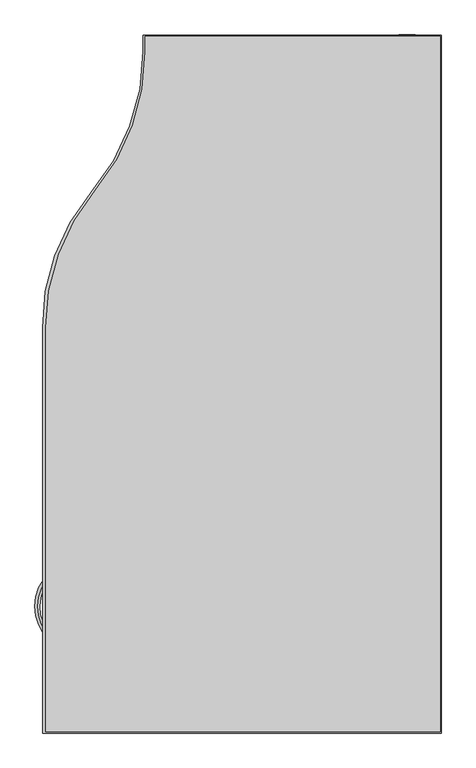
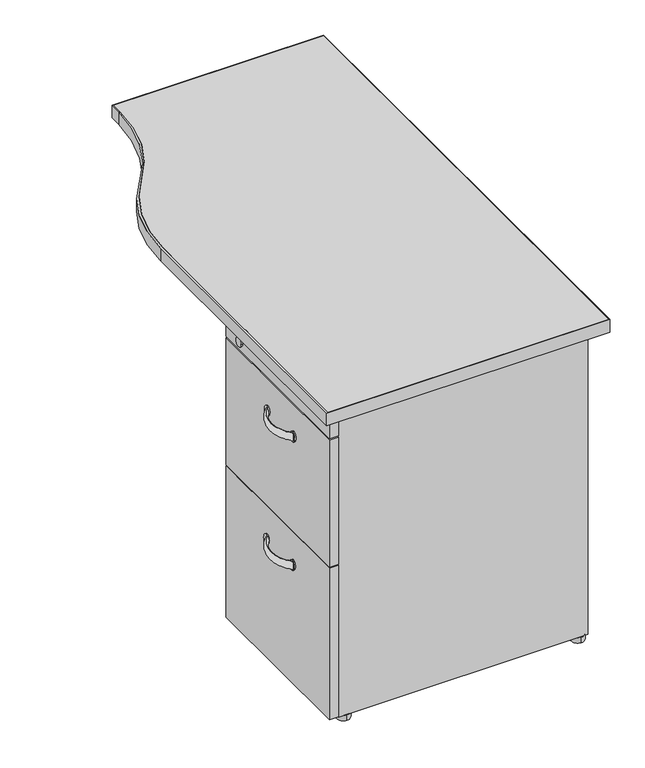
"""IFC4 building model written with IfcOpenShell, lengths in millimetres: furniture geometry, Steelcase - Kick Freestanding - Desk - Single Pedestal Transition Return - Full Modesty Panel : 18D x 42W - Right - File/File."""

import ifcopenshell
import ifcopenshell.guid

model = None  # the IFC model being written
_history = None  # IfcOwnerHistory: only IFC2X3 demands one
_inside = {}  # id of a spatial element -> (the spatial element, [elements in it])
_under = {}  # id of a project, library or spatial element -> (it, [spatial elements below it])
_declared = {}  # id of a project -> (the project, [libraries it declares])
_typed = {}  # id of a type object -> (the type object, [elements of that type])
_made_of = {}  # id of a material, layer set ... -> (it, [elements and type objects made of it])


def new_model(schema):
    """Start an empty IFC model of exactly this schema.

    Asked for "IFC4X3", IfcOpenShell would pick the latest addendum, in which some entities
    have other attributes; the version numbers below select the first issue.
    IFC2X3 requires an IfcOwnerHistory on every rooted entity: one is made here for all.
    """
    global model, _history
    if schema == "IFC4X3":
        model = ifcopenshell.file(schema_version=(4, 3, 0, 0))
    else:
        model = ifcopenshell.file(schema=schema)
    _inside.clear()
    _under.clear()
    _declared.clear()
    _typed.clear()
    _made_of.clear()
    _history = None
    if model.schema == "IFC2X3":
        org = make("IfcOrganization", Name="unknown")
        user = make(
            "IfcPersonAndOrganization",
            ThePerson=make("IfcPerson", FamilyName="unknown"),
            TheOrganization=org,
        )
        app = make(
            "IfcApplication",
            ApplicationDeveloper=org,
            Version="unknown",
            ApplicationFullName="unknown",
            ApplicationIdentifier="unknown",
        )
        _history = make(
            "IfcOwnerHistory",
            OwningUser=user,
            OwningApplication=app,
            ChangeAction="ADDED",
            CreationDate=0,
        )
    return model


def make(cls, **values):
    """One entity of the class cls with the attributes given. An attribute that is None is left unset."""
    return model.create_entity(
        cls, **{name: value for name, value in values.items() if value is not None}
    )


def rooted(cls, **values):
    """An entity with a GlobalId (a new one), such as an element, a storey or a relation."""
    return make(cls, GlobalId=ifcopenshell.guid.new(), OwnerHistory=_history, **values)


def si_unit(unit_type, name, prefix=None):
    """IfcSIUnit, for example si_unit("LENGTHUNIT", "METRE", prefix="MILLI")."""
    return make("IfcSIUnit", UnitType=unit_type, Prefix=prefix, Name=name)


def assignment(units):
    """IfcUnitAssignment: the units of a project."""
    return None if units is None else make("IfcUnitAssignment", Units=units)


def point(xyz):
    """IfcCartesianPoint."""
    return None if xyz is None else make("IfcCartesianPoint", Coordinates=xyz)


def direction(xyz):
    """IfcDirection."""
    return None if xyz is None else make("IfcDirection", DirectionRatios=xyz)


def frame(location, z_axis=None, x_axis=None):
    """IfcAxis2Placement3D, a coordinate frame: its origin and axes. An axis left out is left unset."""
    return make(
        "IfcAxis2Placement3D",
        Location=point(location),
        Axis=direction(z_axis),
        RefDirection=direction(x_axis),
    )


def frame_2d(location, x_axis=None):
    """IfcAxis2Placement2D, a coordinate frame in the plane: its origin and x axis."""
    return make(
        "IfcAxis2Placement2D", Location=point(location), RefDirection=direction(x_axis)
    )


def origin():
    """The frame at (0, 0, 0) with its axes left unset."""
    return frame((0.0, 0.0, 0.0))


def origin_with_axes():
    """The frame at (0, 0, 0) with the z axis (0, 0, 1) and the x axis (1, 0, 0) written out."""
    return frame((0.0, 0.0, 0.0), z_axis=(0.0, 0.0, 1.0), x_axis=(1.0, 0.0, 0.0))


def place(relative_to, where):
    """IfcLocalPlacement: puts the frame where relative to a parent placement (None: the world)."""
    return make(
        "IfcLocalPlacement", PlacementRelTo=relative_to, RelativePlacement=where
    )


def context(
    kind, dimensions, precision=None, world=None, true_north=None, identifier=None
):
    """IfcGeometricRepresentationContext, for example the 3D "Model" context."""
    return make(
        "IfcGeometricRepresentationContext",
        ContextIdentifier=identifier,
        ContextType=kind,
        CoordinateSpaceDimension=dimensions,
        Precision=precision,
        WorldCoordinateSystem=world,
        TrueNorth=true_north,
    )


def project(units=None, contexts=None):
    """IfcProject with its units and contexts."""
    return rooted(
        "IfcProject",
        Name="project",
        RepresentationContexts=contexts,
        UnitsInContext=assignment(units),
    )


def spatial(cls, under=None, at=None, **own):
    """A site, building, storey or space (cls), placed at a placement, below another one or the project."""
    s = rooted(cls, ObjectPlacement=at, **own)
    if under is not None:
        _under.setdefault(under.id(), (under, []))[1].append(s)
    return s


def polyline(points):
    """IfcPolyline through the points."""
    return make("IfcPolyline", Points=[point(p) for p in points])


def circle_curve(where, radius):
    """IfcCircle in the frame where."""
    return make("IfcCircle", Position=where, Radius=radius)


def ellipse_curve(where, semi_axis1, semi_axis2):
    """IfcEllipse in the frame where."""
    return make(
        "IfcEllipse", Position=where, SemiAxis1=semi_axis1, SemiAxis2=semi_axis2
    )


def trimmed(basis, trim1, trim2, sense, master):
    """IfcTrimmedCurve: the piece of a basis curve between two trims."""
    return make(
        "IfcTrimmedCurve",
        BasisCurve=basis,
        Trim1=trim1,
        Trim2=trim2,
        SenseAgreement=sense,
        MasterRepresentation=master,
    )


def segment(curve, same_sense, transition):
    """IfcCompositeCurveSegment."""
    return make(
        "IfcCompositeCurveSegment",
        Transition=transition,
        SameSense=same_sense,
        ParentCurve=curve,
    )


def composite_curve(segments, self_intersect=None):
    """IfcCompositeCurve: segments joined end to end."""
    return make("IfcCompositeCurve", Segments=segments, SelfIntersect=self_intersect)


def outline(outer, holes=None, kind="AREA"):
    """IfcArbitraryClosedProfileDef: a profile drawn as a closed curve; with holes, ...WithVoids."""
    if holes is None:
        return make("IfcArbitraryClosedProfileDef", ProfileType=kind, OuterCurve=outer)
    return make(
        "IfcArbitraryProfileDefWithVoids",
        ProfileType=kind,
        OuterCurve=outer,
        InnerCurves=holes,
    )


def extrude(swept, where, along, depth):
    """IfcExtrudedAreaSolid: the profile swept, set in the frame where, extruded along a direction by depth."""
    return make(
        "IfcExtrudedAreaSolid",
        SweptArea=swept,
        Position=where,
        ExtrudedDirection=direction(along),
        Depth=depth,
    )


def shape(context_of_items, identifier, shape_type, items):
    """IfcShapeRepresentation: the items that make up one representation, for example the "Body"."""
    return make(
        "IfcShapeRepresentation",
        ContextOfItems=context_of_items,
        RepresentationIdentifier=identifier,
        RepresentationType=shape_type,
        Items=items,
    )


def source(mapping_origin, context_of_items, identifier, shape_type, items):
    """IfcRepresentationMap: a shape defined once, which mapped items show again and again."""
    return make(
        "IfcRepresentationMap",
        MappingOrigin=mapping_origin,
        MappedRepresentation=shape(context_of_items, identifier, shape_type, items),
    )


def transform(
    local_origin,
    x_axis=None,
    y_axis=None,
    z_axis=None,
    scale=None,
    scale2=None,
    scale3=None,
    uniform=True,
):
    """IfcCartesianTransformationOperator3D, or its non-uniform kind. x_axis, y_axis, z_axis: its Axis1, 2, 3."""
    if uniform:
        return make(
            "IfcCartesianTransformationOperator3D",
            Axis1=direction(x_axis),
            Axis2=direction(y_axis),
            LocalOrigin=point(local_origin),
            Scale=scale,
            Axis3=direction(z_axis),
        )
    return make(
        "IfcCartesianTransformationOperator3DnonUniform",
        Axis1=direction(x_axis),
        Axis2=direction(y_axis),
        LocalOrigin=point(local_origin),
        Scale=scale,
        Axis3=direction(z_axis),
        Scale2=scale2,
        Scale3=scale3,
    )


def mapped(mapping_source, mapping_target):
    """IfcMappedItem: shows the shape of a source again, moved by a transform."""
    return make(
        "IfcMappedItem", MappingSource=mapping_source, MappingTarget=mapping_target
    )


def made_of(thing, what):
    """Note that an element or type object is made of a material, layer set ...; save() writes the relation."""
    if what is not None:
        _made_of.setdefault(what.id(), (what, []))[1].append(thing)
    return thing


def element(
    cls,
    number,
    at=None,
    inside=None,
    cuts=None,
    type_object=None,
    material=None,
    context=None,
    identifier="Body",
    shape_type=None,
    held_by="IfcProductDefinitionShape",
    body=None,
    shapes=None,
    **own,
):
    """One element of the class cls, such as IfcWall. Its Tag is "e" and its number.

    at: its placement. inside: the storey or other place that contains it. cuts: it is an
    opening in that element (IfcRelVoidsElement). A single representation is given by context,
    identifier, shape_type and body (its items); several are given by shapes. held_by: the class
    of the entity that holds the representations. save() writes the other relations.
    """
    e = rooted(cls, Tag="e%d" % number, ObjectPlacement=at, **own)
    if body is not None:
        shapes = [shape(context, identifier, shape_type, body)]
    if shapes is not None:
        e.Representation = make(held_by, Representations=shapes)
    if inside is not None:
        _inside.setdefault(inside.id(), (inside, []))[1].append(e)
    if cuts is not None:
        rooted(
            "IfcRelVoidsElement", RelatingBuildingElement=cuts, RelatedOpeningElement=e
        )
    if type_object is not None:
        _typed.setdefault(type_object.id(), (type_object, []))[1].append(e)
    return made_of(e, material)


def aggregate(whole, parts):
    """IfcRelAggregates: a whole, such as a stair, and the parts it consists of."""
    return rooted("IfcRelAggregates", RelatingObject=whole, RelatedObjects=parts)


def save(model, path):
    """Write the relations noted so far, then the file.

    IfcRelAggregates (storeys below a building ...), IfcRelContainedInSpatialStructure (elements
    in a storey), IfcRelDefinesByType, IfcRelAssociatesMaterial and IfcRelDeclares: one each for
    every whole, place, type object, material and project.
    """
    for whole, parts in _under.values():
        aggregate(whole, parts)
    for where, things in _inside.values():
        rooted(
            "IfcRelContainedInSpatialStructure",
            RelatedElements=things,
            RelatingStructure=where,
        )
    for kind, things in _typed.values():
        rooted("IfcRelDefinesByType", RelatedObjects=things, RelatingType=kind)
    for what, things in _made_of.values():
        rooted("IfcRelAssociatesMaterial", RelatedObjects=things, RelatingMaterial=what)
    for by, libraries in _declared.values():
        rooted("IfcRelDeclares", RelatingContext=by, RelatedDefinitions=libraries)
    model.write(path)


def plane_surface(at):
    """IfcPlane: the flat surface through the origin of the frame at, square to its z axis."""
    return make("IfcPlane", Position=at)


def cylinder_surface(at, radius):
    """IfcCylindricalSurface: all points at the distance radius from the z axis of the frame at."""
    return make("IfcCylindricalSurface", Position=at, Radius=radius)


def revolved_surface(curve, axis_point, axis_direction):
    """IfcSurfaceOfRevolution: the curve turned about the line through axis_point along axis_direction."""
    return make(
        "IfcSurfaceOfRevolution",
        SweptCurve=make("IfcArbitraryOpenProfileDef", ProfileType="CURVE", Curve=curve),
        AxisPosition=make("IfcAxis1Placement", Location=point(axis_point), Axis=direction(axis_direction)),
    )


def extruded_surface(curve, direction_of_extrusion, depth):
    """IfcSurfaceOfLinearExtrusion: the curve pushed along a direction by depth."""
    return make(
        "IfcSurfaceOfLinearExtrusion",
        SweptCurve=make("IfcArbitraryOpenProfileDef", ProfileType="CURVE", Curve=curve),
        ExtrudedDirection=direction(direction_of_extrusion),
        Depth=depth,
    )


def advanced_brep(points, edges, surfaces, faces):
    """IfcAdvancedBrep: a solid bounded by faces that lie on surfaces and meet in shared edges.

    An edge is (start, end): straight between two places in points (the first is 0);
    or (start, end, curve); or (start, end, curve, False) where it runs against its curve.
    A face is (place in surfaces, loops), or (place, loops, False) where it looks against
    its surface's normal. A loop lists edges by number (the first is 1), with a minus sign
    where the edge is run from its end to its start. The first loop is the outer one.
    """
    corners = [point(p) for p in points]
    vertices = [make("IfcVertexPoint", VertexGeometry=c) for c in corners]
    made = []
    for start, end, *more in edges:
        made.append(
            make(
                "IfcEdgeCurve",
                EdgeStart=vertices[start],
                EdgeEnd=vertices[end],
                EdgeGeometry=more[0] if more else make("IfcPolyline", Points=[corners[start], corners[end]]),
                SameSense=more[1] if len(more) > 1 else True,
            )
        )
    hull = []
    for where, loops, *sense in faces:
        bounds = []
        for j, loop in enumerate(loops):
            ring = [make("IfcOrientedEdge", EdgeElement=made[abs(k) - 1], Orientation=k > 0) for k in loop]
            bounds.append(
                make(
                    "IfcFaceOuterBound" if j == 0 else "IfcFaceBound",
                    Bound=make("IfcEdgeLoop", EdgeList=ring),
                    Orientation=True,
                )
            )
        hull.append(make("IfcAdvancedFace", Bounds=bounds, FaceSurface=surfaces[where], SameSense=sense[0] if sense else True))
    return make("IfcAdvancedBrep", Outer=make("IfcClosedShell", CfsFaces=hull))


def furniture_0ed81d34(model_context):
    return source(origin(), model_context, "Body", "SolidModel", [
        advanced_brep(
        [(1567.1281641, -1469.2132511, 586.4818798), (1567.1281641, -1469.2132511, 569.2783404), (1567.7941808, -1370.0632386, 586.4818798), (1567.7941808, -1370.0632386, 569.2783404)],
        [
            (0, 1, ellipse_curve(frame((1567.1281641, -1469.2132511, 577.8801101), z_axis=(0.7327226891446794, -0.6805273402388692, 0.0), x_axis=(0.0, 0.0, -1.0)), 8.6017697, 3.6448177)),
            (1, 0, ellipse_curve(frame((1567.1281641, -1469.2132511, 577.8801101), z_axis=(0.7327226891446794, -0.6805273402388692, 0.0), x_axis=(0.0, 0.0, -1.0)), 8.6017697, 3.6448177)),
            (2, 3, ellipse_curve(frame((1567.7941808, -1370.0632386, 577.8801101), z_axis=(0.7417987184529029, 0.670622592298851, 0.0), x_axis=(0.0, 0.0, -1.0)), 8.6017697, 3.6448177)),
            (3, 2, ellipse_curve(frame((1567.7941808, -1370.0632386, 577.8801101), z_axis=(0.7417987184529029, 0.670622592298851, 0.0), x_axis=(0.0, 0.0, -1.0)), 8.6017697, 3.6448177)),
            (3, 1, circle_curve(frame((1612.8882961, -1419.9433908, 569.2783404), z_axis=(0.0, 0.0, 1.0), x_axis=(-0.6805273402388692, -0.7327226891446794, 0.0)), 67.2421655)),
            (0, 2, circle_curve(frame((1612.8882961, -1419.9433908, 586.4818798), z_axis=(0.0, 0.0, -1.0), x_axis=(-0.6805273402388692, -0.7327226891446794, 0.0)), 67.2421655)),
        ],
        [
            plane_surface(frame((1566.3645897, -1470.0353903, 0.0), z_axis=(0.7327226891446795, -0.6805273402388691, 0.0), x_axis=(0.0, 0.0, 1.0))),
            plane_surface(frame((1567.0417199, -1369.2309157, 0.0), z_axis=(0.7417987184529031, 0.6706225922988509, 0.0), x_axis=(0.0, 0.0, 1.0))),
            revolved_surface(trimmed(ellipse_curve(frame((1567.1281641, -1469.2132511, 577.8801101), z_axis=(0.7327226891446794, -0.6805273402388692, 0.0), x_axis=(0.0, 0.0, -1.0)), 8.6017697, 3.6448177), [point((1567.1281641, -1469.2132511, 586.4818798))], [point((1567.1281641, -1469.2132511, 569.2783404))], True, "CARTESIAN"), (1612.8882961, -1419.9433908, 0.0), (0.0, 0.0, -1.0)),
            revolved_surface(trimmed(ellipse_curve(frame((1567.1281641, -1469.2132511, 577.8801101), z_axis=(0.7327226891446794, -0.6805273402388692, 0.0), x_axis=(0.0, 0.0, -1.0)), 8.6017697, 3.6448177), [point((1567.1281641, -1469.2132511, 569.2783404))], [point((1567.1281641, -1469.2132511, 586.4818798))], True, "CARTESIAN"), (1612.8882961, -1419.9433908, 0.0), (0.0, 0.0, -1.0)),
        ],
        [
            (0, [[1, 2]]),
            (1, [[3, 4]]),
            (2, [[5, -1, 6, -4]]),
            (3, [[-6, -2, -5, -3]]),
        ],
    ),
        advanced_brep(
        [(1567.1281641, -1469.2132511, 293.5881298), (1567.1281641, -1469.2132511, 276.3845904), (1567.7941808, -1370.0632386, 293.5881298), (1567.7941808, -1370.0632386, 276.3845904)],
        [
            (0, 1, ellipse_curve(frame((1567.1281641, -1469.2132511, 284.9863601), z_axis=(0.7327226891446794, -0.6805273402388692, 0.0), x_axis=(0.0, 0.0, -1.0)), 8.6017697, 3.6448177)),
            (1, 0, ellipse_curve(frame((1567.1281641, -1469.2132511, 284.9863601), z_axis=(0.7327226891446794, -0.6805273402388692, 0.0), x_axis=(0.0, 0.0, -1.0)), 8.6017697, 3.6448177)),
            (2, 3, ellipse_curve(frame((1567.7941808, -1370.0632386, 284.9863601), z_axis=(0.7417987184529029, 0.670622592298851, 0.0), x_axis=(0.0, 0.0, -1.0)), 8.6017697, 3.6448177)),
            (3, 2, ellipse_curve(frame((1567.7941808, -1370.0632386, 284.9863601), z_axis=(0.7417987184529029, 0.670622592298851, 0.0), x_axis=(0.0, 0.0, -1.0)), 8.6017697, 3.6448177)),
            (3, 1, circle_curve(frame((1612.8882961, -1419.9433908, 276.3845904), z_axis=(0.0, 0.0, 1.0), x_axis=(-0.6805273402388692, -0.7327226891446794, 0.0)), 67.2421655)),
            (0, 2, circle_curve(frame((1612.8882961, -1419.9433908, 293.5881298), z_axis=(0.0, 0.0, -1.0), x_axis=(-0.6805273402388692, -0.7327226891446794, 0.0)), 67.2421655)),
        ],
        [
            plane_surface(frame((1566.3645897, -1470.0353903, 0.0), z_axis=(0.7327226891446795, -0.6805273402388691, 0.0), x_axis=(0.0, 0.0, 1.0))),
            plane_surface(frame((1567.0417199, -1369.2309157, 0.0), z_axis=(0.7417987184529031, 0.6706225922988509, 0.0), x_axis=(0.0, 0.0, 1.0))),
            revolved_surface(trimmed(ellipse_curve(frame((1567.1281641, -1469.2132511, 284.9863601), z_axis=(0.7327226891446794, -0.6805273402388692, 0.0), x_axis=(0.0, 0.0, -1.0)), 8.6017697, 3.6448177), [point((1567.1281641, -1469.2132511, 293.5881298))], [point((1567.1281641, -1469.2132511, 276.3845904))], True, "CARTESIAN"), (1612.8882961, -1419.9433908, 0.0), (0.0, 0.0, -1.0)),
            revolved_surface(trimmed(ellipse_curve(frame((1567.1281641, -1469.2132511, 284.9863601), z_axis=(0.7327226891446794, -0.6805273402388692, 0.0), x_axis=(0.0, 0.0, -1.0)), 8.6017697, 3.6448177), [point((1567.1281641, -1469.2132511, 276.3845904))], [point((1567.1281641, -1469.2132511, 293.5881298))], True, "CARTESIAN"), (1612.8882961, -1419.9433908, 0.0), (0.0, 0.0, -1.0)),
        ],
        [
            (0, [[1, 2]]),
            (1, [[3, 4]]),
            (2, [[5, -1, 6, -4]]),
            (3, [[-6, -2, -5, -3]]),
        ],
    ),
        advanced_brep(
        [(1564.8733086, -1276.6380273, 671.1566635), (1564.8733086, -1256.3180273, 671.1566635), (1567.9720601, -1276.6380273, 671.1566635), (1567.9720601, -1256.3180273, 671.1566635)],
        [
            (0, 1, circle_curve(frame((1564.8733086, -1266.4780273, 671.1566635), z_axis=(-1.0, 0.0, 0.0), x_axis=(0.0, 1.0, 0.0)), 10.16)),
            (1, 0, circle_curve(frame((1564.8733086, -1266.4780273, 671.1566635), z_axis=(-1.0, 0.0, 0.0), x_axis=(0.0, 1.0, 0.0)), 10.16)),
            (2, 3, circle_curve(frame((1567.9720601, -1266.4780273, 671.1566635), z_axis=(1.0, 0.0, 0.0), x_axis=(0.0, 1.0, 0.0)), 10.16)),
            (3, 2, circle_curve(frame((1567.9720601, -1266.4780273, 671.1566635), z_axis=(1.0, 0.0, 0.0), x_axis=(0.0, 1.0, 0.0)), 10.16)),
            (0, 2),
            (3, 1),
        ],
        [
            plane_surface(frame((1564.8733086, -1256.3180273, 671.1566635), z_axis=(-1.0, 0.0, 0.0), x_axis=(0.0, 0.0, -1.0))),
            plane_surface(frame((1567.9720601, -1256.3180273, 671.1566635), z_axis=(1.0, 0.0, 0.0), x_axis=(0.0, 0.0, 1.0))),
            cylinder_surface(frame((1567.9720601, -1266.4780273, 671.1566635), z_axis=(-1.0, 0.0, 0.0), x_axis=(0.0, 1.0, 0.0)), 10.16),
        ],
        [
            (0, [[1, 2]]),
            (1, [[3, 4]]),
            (2, [[-1, 5, -4, 6]]),
            (2, [[-2, -6, -3, -5]]),
        ],
    ),
        advanced_brep(
        [(1564.8733086, -1467.8140492, 589.4466513), (1564.8733086, -1467.8140492, 566.5866513), (1567.9720601, -1467.8140492, 589.4466513), (1567.9720601, -1467.8140492, 566.5866513)],
        [
            (0, 1, ellipse_curve(frame((1564.8733086, -1467.8140492, 578.0166513), z_axis=(-1.0, 0.0, 0.0), x_axis=(0.0, 0.0, -1.0)), 11.43, 8.0054005)),
            (1, 0, ellipse_curve(frame((1564.8733086, -1467.8140492, 578.0166513), z_axis=(-1.0, 0.0, 0.0), x_axis=(0.0, 0.0, -1.0)), 11.43, 8.0054005)),
            (2, 3, ellipse_curve(frame((1567.9720601, -1467.8140492, 578.0166513), z_axis=(1.0, 0.0, 0.0), x_axis=(0.0, 0.0, -1.0)), 11.43, 8.0054005)),
            (3, 2, ellipse_curve(frame((1567.9720601, -1467.8140492, 578.0166513), z_axis=(1.0, 0.0, 0.0), x_axis=(0.0, 0.0, -1.0)), 11.43, 8.0054005)),
            (0, 2),
            (3, 1),
        ],
        [
            plane_surface(frame((1564.8733086, -1256.3180273, 671.1566635), z_axis=(-1.0, 0.0, 0.0), x_axis=(0.0, 0.0, -1.0))),
            plane_surface(frame((1567.9720601, -1256.3180273, 671.1566635), z_axis=(1.0, 0.0, 0.0), x_axis=(0.0, 0.0, 1.0))),
            extruded_surface(trimmed(ellipse_curve(frame((1571.9598601, -1467.8140492, 578.0166513), z_axis=(-1.0, 0.0, 0.0), x_axis=(0.0, 0.0, -1.0)), 11.43, 8.0054005), [point((1571.9598601, -1467.8140492, 589.4466513))], [point((1571.9598601, -1467.8140492, 566.5866513))], True, "CARTESIAN"), (-3.098751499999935, 0.0, 0.0), 3.098751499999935),
            extruded_surface(trimmed(ellipse_curve(frame((1571.9598601, -1467.8140492, 578.0166513), z_axis=(-1.0, 0.0, 0.0), x_axis=(0.0, 0.0, -1.0)), 11.43, 8.0054005), [point((1571.9598601, -1467.8140492, 566.5866513))], [point((1571.9598601, -1467.8140492, 589.4466513))], True, "CARTESIAN"), (-3.098751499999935, 0.0, 0.0), 3.098751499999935),
        ],
        [
            (0, [[1, 2]]),
            (1, [[3, 4]]),
            (2, [[-1, 5, -4, 6]]),
            (3, [[-2, -6, -3, -5]]),
        ],
    ),
        advanced_brep(
        [(1564.8733086, -1370.4852323, 589.4466513), (1564.8733086, -1370.4852323, 566.5866513), (1567.9720601, -1370.4852323, 589.4466513), (1567.9720601, -1370.4852323, 566.5866513)],
        [
            (0, 1, ellipse_curve(frame((1564.8733086, -1370.4852323, 578.0166513), z_axis=(-1.0, 0.0, 0.0), x_axis=(0.0, 0.0, -1.0)), 11.43, 8.0054005)),
            (1, 0, ellipse_curve(frame((1564.8733086, -1370.4852323, 578.0166513), z_axis=(-1.0, 0.0, 0.0), x_axis=(0.0, 0.0, -1.0)), 11.43, 8.0054005)),
            (2, 3, ellipse_curve(frame((1567.9720601, -1370.4852323, 578.0166513), z_axis=(1.0, 0.0, 0.0), x_axis=(0.0, 0.0, -1.0)), 11.43, 8.0054005)),
            (3, 2, ellipse_curve(frame((1567.9720601, -1370.4852323, 578.0166513), z_axis=(1.0, 0.0, 0.0), x_axis=(0.0, 0.0, -1.0)), 11.43, 8.0054005)),
            (0, 2),
            (3, 1),
        ],
        [
            plane_surface(frame((1564.8733086, -1256.3180273, 671.1566635), z_axis=(-1.0, 0.0, 0.0), x_axis=(0.0, 0.0, -1.0))),
            plane_surface(frame((1567.9720601, -1256.3180273, 671.1566635), z_axis=(1.0, 0.0, 0.0), x_axis=(0.0, 0.0, 1.0))),
            extruded_surface(trimmed(ellipse_curve(frame((1571.9598601, -1370.4852323, 578.0166513), z_axis=(-1.0, 0.0, 0.0), x_axis=(0.0, 0.0, -1.0)), 11.43, 8.0054005), [point((1571.9598601, -1370.4852323, 589.4466513))], [point((1571.9598601, -1370.4852323, 566.5866513))], True, "CARTESIAN"), (-3.098751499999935, 0.0, 0.0), 3.098751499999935),
            extruded_surface(trimmed(ellipse_curve(frame((1571.9598601, -1370.4852323, 578.0166513), z_axis=(-1.0, 0.0, 0.0), x_axis=(0.0, 0.0, -1.0)), 11.43, 8.0054005), [point((1571.9598601, -1370.4852323, 566.5866513))], [point((1571.9598601, -1370.4852323, 589.4466513))], True, "CARTESIAN"), (-3.098751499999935, 0.0, 0.0), 3.098751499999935),
        ],
        [
            (0, [[1, 2]]),
            (1, [[3, 4]]),
            (2, [[-1, 5, -4, 6]]),
            (3, [[-2, -6, -3, -5]]),
        ],
    ),
        advanced_brep(
        [(1564.8733086, -1465.7551434, 296.0079573), (1564.8733086, -1465.7551434, 273.1479573), (1567.9720601, -1465.7551434, 296.0079573), (1567.9720601, -1465.7551434, 273.1479573)],
        [
            (0, 1, ellipse_curve(frame((1564.8733086, -1465.7551434, 284.5779573), z_axis=(-1.0, 0.0, 0.0), x_axis=(0.0, 0.0, -1.0)), 11.43, 8.0054005)),
            (1, 0, ellipse_curve(frame((1564.8733086, -1465.7551434, 284.5779573), z_axis=(-1.0, 0.0, 0.0), x_axis=(0.0, 0.0, -1.0)), 11.43, 8.0054005)),
            (2, 3, ellipse_curve(frame((1567.9720601, -1465.7551434, 284.5779573), z_axis=(1.0, 0.0, 0.0), x_axis=(0.0, 0.0, -1.0)), 11.43, 8.0054005)),
            (3, 2, ellipse_curve(frame((1567.9720601, -1465.7551434, 284.5779573), z_axis=(1.0, 0.0, 0.0), x_axis=(0.0, 0.0, -1.0)), 11.43, 8.0054005)),
            (0, 2),
            (3, 1),
        ],
        [
            plane_surface(frame((1564.8733086, -1256.3180273, 671.1566635), z_axis=(-1.0, 0.0, 0.0), x_axis=(0.0, 0.0, -1.0))),
            plane_surface(frame((1567.9720601, -1256.3180273, 671.1566635), z_axis=(1.0, 0.0, 0.0), x_axis=(0.0, 0.0, 1.0))),
            extruded_surface(trimmed(ellipse_curve(frame((1571.9598601, -1465.7551434, 284.5779573), z_axis=(-1.0, 0.0, 0.0), x_axis=(0.0, 0.0, -1.0)), 11.43, 8.0054005), [point((1571.9598601, -1465.7551434, 296.0079573))], [point((1571.9598601, -1465.7551434, 273.1479573))], True, "CARTESIAN"), (-3.098751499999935, 0.0, 0.0), 3.098751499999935),
            extruded_surface(trimmed(ellipse_curve(frame((1571.9598601, -1465.7551434, 284.5779573), z_axis=(-1.0, 0.0, 0.0), x_axis=(0.0, 0.0, -1.0)), 11.43, 8.0054005), [point((1571.9598601, -1465.7551434, 273.1479573))], [point((1571.9598601, -1465.7551434, 296.0079573))], True, "CARTESIAN"), (-3.098751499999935, 0.0, 0.0), 3.098751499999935),
        ],
        [
            (0, [[1, 2]]),
            (1, [[3, 4]]),
            (2, [[-1, 5, -4, 6]]),
            (3, [[-2, -6, -3, -5]]),
        ],
    ),
        advanced_brep(
        [(1564.8733086, -1368.4263266, 296.0079573), (1564.8733086, -1368.4263266, 273.1479573), (1567.9720601, -1368.4263266, 296.0079573), (1567.9720601, -1368.4263266, 273.1479573)],
        [
            (0, 1, ellipse_curve(frame((1564.8733086, -1368.4263266, 284.5779573), z_axis=(-1.0, 0.0, 0.0), x_axis=(0.0, 0.0, -1.0)), 11.43, 8.0054005)),
            (1, 0, ellipse_curve(frame((1564.8733086, -1368.4263266, 284.5779573), z_axis=(-1.0, 0.0, 0.0), x_axis=(0.0, 0.0, -1.0)), 11.43, 8.0054005)),
            (2, 3, ellipse_curve(frame((1567.9720601, -1368.4263266, 284.5779573), z_axis=(1.0, 0.0, 0.0), x_axis=(0.0, 0.0, -1.0)), 11.43, 8.0054005)),
            (3, 2, ellipse_curve(frame((1567.9720601, -1368.4263266, 284.5779573), z_axis=(1.0, 0.0, 0.0), x_axis=(0.0, 0.0, -1.0)), 11.43, 8.0054005)),
            (0, 2),
            (3, 1),
        ],
        [
            plane_surface(frame((1564.8733086, -1256.3180273, 671.1566635), z_axis=(-1.0, 0.0, 0.0), x_axis=(0.0, 0.0, -1.0))),
            plane_surface(frame((1567.9720601, -1256.3180273, 671.1566635), z_axis=(1.0, 0.0, 0.0), x_axis=(0.0, 0.0, 1.0))),
            extruded_surface(trimmed(ellipse_curve(frame((1571.9598601, -1368.4263266, 284.5779573), z_axis=(-1.0, 0.0, 0.0), x_axis=(0.0, 0.0, -1.0)), 11.43, 8.0054005), [point((1571.9598601, -1368.4263266, 296.0079573))], [point((1571.9598601, -1368.4263266, 273.1479573))], True, "CARTESIAN"), (-3.098751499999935, 0.0, 0.0), 3.098751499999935),
            extruded_surface(trimmed(ellipse_curve(frame((1571.9598601, -1368.4263266, 284.5779573), z_axis=(-1.0, 0.0, 0.0), x_axis=(0.0, 0.0, -1.0)), 11.43, 8.0054005), [point((1571.9598601, -1368.4263266, 273.1479573))], [point((1571.9598601, -1368.4263266, 296.0079573))], True, "CARTESIAN"), (-3.098751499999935, 0.0, 0.0), 3.098751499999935),
        ],
        [
            (0, [[1, 2]]),
            (1, [[3, 4]]),
            (2, [[-1, 5, -4, 6]]),
            (3, [[-2, -6, -3, -5]]),
        ],
    ),
        extrude(outline(polyline([(1567.9720601, -1600.3145982), (1567.9720601, -1215.3776054), (1587.9111086, -1215.3776054), (1587.9111086, -1600.3145982), (1567.9720601, -1600.3145982)])), frame((0.0, 0.0, 360.6545895), z_axis=(0.0, 0.0, 1.0), x_axis=(1.0, 0.0, 0.0)), (0.0, 0.0, 1.0), 288.9250242),
        extrude(outline(polyline([(1567.9720601, -1600.3145982), (1567.9720601, -1215.3776054), (1587.9111086, -1215.3776054), (1587.9111086, -1600.3145982), (1567.9720601, -1600.3145982)])), frame((0.0, 0.0, 12.7), z_axis=(0.0, 0.0, 1.0), x_axis=(1.0, 0.0, 0.0)), (0.0, 0.0, 1.0), 344.7796016),
        extrude(outline(polyline([(1567.9720601, -1600.3145982), (1567.9720601, -1215.3776054), (1587.9111086, -1215.3776054), (1587.9111086, -1600.3145982), (1567.9720601, -1600.3145982)])), frame((0.0, 0.0, 652.7545653), z_axis=(0.0, 0.0, 1.0), x_axis=(1.0, 0.0, 0.0)), (0.0, 0.0, 1.0), 40.6400339),
        extrude(outline(composite_curve([segment(trimmed(circle_curve(frame_2d((2110.0114425, -1587.7382652)), 13.97), [point((2110.0114425, -1601.7082652))], [point((2110.0114425, -1573.7682652))], False, "CARTESIAN"), True, "CONTINUOUS"), segment(trimmed(circle_curve(frame_2d((2110.0114425, -1587.7382652)), 13.97), [point((2110.0114425, -1573.7682652))], [point((2110.0114425, -1601.7082652))], False, "CARTESIAN"), True, "CONTINUOUS")], self_intersect=False)), origin_with_axes(), (0.0, 0.0, 1.0), 12.446),
        extrude(outline(composite_curve([segment(trimmed(circle_curve(frame_2d((1605.0594425, -1587.7382652)), 13.97), [point((1605.0594425, -1601.7082652))], [point((1605.0594425, -1573.7682652))], False, "CARTESIAN"), True, "CONTINUOUS"), segment(trimmed(circle_curve(frame_2d((1605.0594425, -1587.7382652)), 13.97), [point((1605.0594425, -1573.7682652))], [point((1605.0594425, -1601.7082652))], False, "CARTESIAN"), True, "CONTINUOUS")], self_intersect=False)), origin_with_axes(), (0.0, 0.0, 1.0), 12.446),
        extrude(outline(composite_curve([segment(trimmed(circle_curve(frame_2d((2110.0114425, -1228.0776054)), 13.97), [point((2110.0114425, -1242.0476054))], [point((2110.0114425, -1214.1076054))], False, "CARTESIAN"), True, "CONTINUOUS"), segment(trimmed(circle_curve(frame_2d((2110.0114425, -1228.0776054)), 13.97), [point((2110.0114425, -1214.1076054))], [point((2110.0114425, -1242.0476054))], False, "CARTESIAN"), True, "CONTINUOUS")], self_intersect=False)), origin_with_axes(), (0.0, 0.0, 1.0), 12.446),
        extrude(outline(composite_curve([segment(trimmed(circle_curve(frame_2d((1604.2584597, -1228.0776054)), 12.7), [point((1604.2584597, -1240.7776054))], [point((1604.2584597, -1215.3776054))], False, "CARTESIAN"), True, "CONTINUOUS"), segment(trimmed(circle_curve(frame_2d((1604.2584597, -1228.0776054)), 12.7), [point((1604.2584597, -1215.3776054))], [point((1604.2584597, -1240.7776054))], False, "CARTESIAN"), True, "CONTINUOUS")], self_intersect=False)), origin_with_axes(), (0.0, 0.0, 1.0), 12.446),
        extrude(outline(polyline([(2124.4860601, -1215.3776054), (2124.4860601, -1600.3145982), (1587.9111086, -1600.3145982), (1587.9111086, -1215.3776054), (2124.4860601, -1215.3776054)]), holes=[polyline([(2099.0860609, -1235.2149846), (1608.4850708, -1235.2149846), (1608.4850708, -1580.4771996), (2099.0860609, -1580.4771996), (2099.0860609, -1235.2149846)])]), frame((0.0, 0.0, 12.446), z_axis=(0.0, 0.0, 1.0), x_axis=(1.0, 0.0, 0.0)), (0.0, 0.0, 1.0), 682.498),
        extrude(outline(composite_curve([segment(polyline([(1707.9294594, -546.8145152), (2163.8594425, -546.8145152), (2163.8594425, -1613.6145152), (1554.2594425, -1613.6145152), (1554.2594425, -994.1085152)]), True, "CONTINUOUS"), segment(trimmed(circle_curve(frame_2d((1864.0239413, -987.7058619)), 309.8306613), [point((1554.2594425, -994.1085152))], [point((1628.457587, -786.4509703))], False, "CARTESIAN"), True, "CONTINUOUS"), segment(trimmed(circle_curve(frame_2d((1376.3728371, -571.0836731)), 331.5566223), [point((1628.457587, -786.4509703))], [point((1707.9294594, -571.0836731))], True, "CARTESIAN"), True, "CONTINUOUS"), segment(polyline([(1707.9294594, -571.0836731), (1707.9294594, -546.8145152)]), True, "CONTINUOUS")], self_intersect=False), holes=[composite_curve([segment(polyline([(1710.9012257, -547.8051152), (1710.9012257, -572.1320079)]), True, "CONTINUOUS"), segment(trimmed(circle_curve(frame_2d((1386.0725345, -574.5942763)), 324.8380233), [point((1710.9012257, -572.1320079))], [point((1635.1600947, -783.1011797))], False, "CARTESIAN"), True, "CONTINUOUS"), segment(trimmed(circle_curve(frame_2d((1887.2347336, -994.1085152)), 328.7335079), [point((1635.1600947, -783.1011797))], [point((1558.5012257, -994.1085152))], True, "CARTESIAN"), True, "CONTINUOUS"), segment(polyline([(1558.5012257, -994.1085152), (1558.5012257, -1611.8619332), (2162.8688425, -1611.8619332), (2162.8688425, -547.8051152), (1710.9012257, -547.8051152)]), True, "CONTINUOUS")], self_intersect=False)]), frame((0.0, 0.0, 694.944), z_axis=(0.0, 0.0, 1.0), x_axis=(1.0, 0.0, 0.0)), (0.0, 0.0, 1.0), 28.956),
        extrude(outline(composite_curve([segment(polyline([(2162.8688425, -547.8051152), (2162.8688425, -1611.8619332), (1558.5012257, -1611.8619332), (1558.5012257, -994.1085152)]), True, "CONTINUOUS"), segment(trimmed(circle_curve(frame_2d((1887.2347336, -994.1085152)), 328.7335079), [point((1558.5012257, -994.1085152))], [point((1635.1600947, -783.1011797))], False, "CARTESIAN"), True, "CONTINUOUS"), segment(trimmed(circle_curve(frame_2d((1386.0725345, -574.5942763)), 324.8380233), [point((1635.1600947, -783.1011797))], [point((1710.9012257, -572.1320079))], True, "CARTESIAN"), True, "CONTINUOUS"), segment(polyline([(1710.9012257, -572.1320079), (1710.9012257, -547.8051152), (2162.8688425, -547.8051152)]), True, "CONTINUOUS")], self_intersect=False)), frame((0.0, 0.0, 694.944), z_axis=(0.0, 0.0, 1.0), x_axis=(1.0, 0.0, 0.0)), (0.0, 0.0, 1.0), 28.956),
        extrude(outline(polyline([(2099.0860609, -546.0525152), (2124.4860601, -546.0525152), (2124.4860601, -1215.3776054), (2099.0860609, -1215.3776054), (2099.0860609, -546.0525152)])), frame((0.0, 0.0, 31.242), z_axis=(0.0, 0.0, 1.0), x_axis=(1.0, 0.0, 0.0)), (0.0, 0.0, 1.0), 663.702),
    ])


if __name__ == "__main__":
    model = new_model("IFC4")
    model_context = context("Model", 3, world=origin())
    ifc_project = project(units=[si_unit("LENGTHUNIT", "METRE", prefix="MILLI")], contexts=[model_context])
    site = spatial("IfcSite", under=ifc_project)
    building = spatial("IfcBuilding", under=site)
    placement = place(None, origin())
    furniture_shape = furniture_0ed81d34(model_context)
    element("IfcFurniture", 1, ObjectType="Steelcase - Kick Freestanding - Desk - Single Pedestal Transition Return - Full Modesty Panel : 18D x 42W - Right - File/File", at=placement, inside=building, context=model_context, shape_type="MappedRepresentation", body=[
        mapped(furniture_shape, transform((0.0, 0.0, 0.0), x_axis=(1.0, 0.0, 0.0), y_axis=(0.0, 1.0, 0.0), z_axis=(0.0, 0.0, 1.0))),
    ])
    save(model, "model.ifc")
